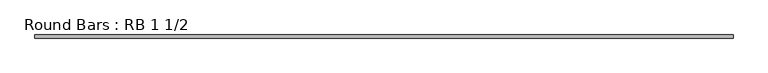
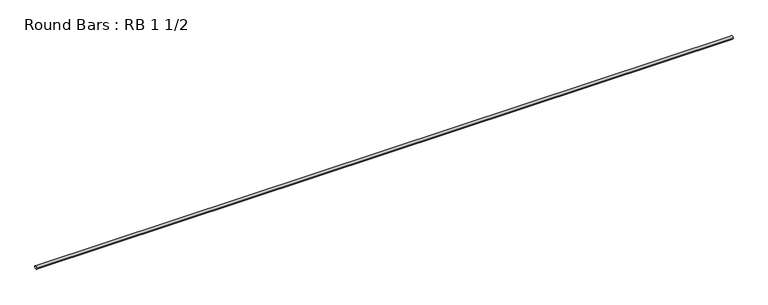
"""IFC4 building model written with IfcOpenShell, lengths in millimetres: member geometry, Round Bars : RB 1 1/2."""

from ifc_helpers import new_model, si_unit, point, frame, origin, origin_2d, place, context, project, spatial, circle_curve, trimmed, segment, composite_curve, outline, extrude, source, transform, mapped, element, save


def round_bars_rb_1_1_2_e9ff4006(model_context):
    return source(origin(), model_context, "Body", "SweptSolid", [
        extrude(outline(composite_curve([segment(trimmed(circle_curve(origin_2d(), 19.05), [point((19.05, 0.0))], [point((-19.05, 0.0))], False, "CARTESIAN"), True, "CONTINUOUS"), segment(trimmed(circle_curve(origin_2d(), 19.05), [point((-19.05, 0.0))], [point((19.05, 0.0))], False, "CARTESIAN"), True, "CONTINUOUS")], self_intersect=False)), frame((-4214.4373535, 0.0, 0.0), z_axis=(1.0, 0.0, 0.0), x_axis=(0.0, 1.0, 0.0)), (0.0, 0.0, 1.0), 8428.874483),
    ])


if __name__ == "__main__":
    model = new_model("IFC4")
    model_context = context("Model", 3, world=origin())
    ifc_project = project(units=[si_unit("LENGTHUNIT", "METRE", prefix="MILLI")], contexts=[model_context])
    site = spatial("IfcSite", under=ifc_project)
    building = spatial("IfcBuilding", under=site)
    placement = place(None, origin())
    round_bars_rb_1_1_2_shape = round_bars_rb_1_1_2_e9ff4006(model_context)
    element("IfcMember", 1, ObjectType="Round Bars : RB 1 1/2", at=placement, inside=building, context=model_context, shape_type="MappedRepresentation", body=[
        mapped(round_bars_rb_1_1_2_shape, transform((0.0, 0.0, 0.0), x_axis=(1.0, 0.0, 0.0), y_axis=(0.0, 1.0, 0.0), z_axis=(0.0, 0.0, 1.0))),
    ])
    save(model, "model.ifc")
